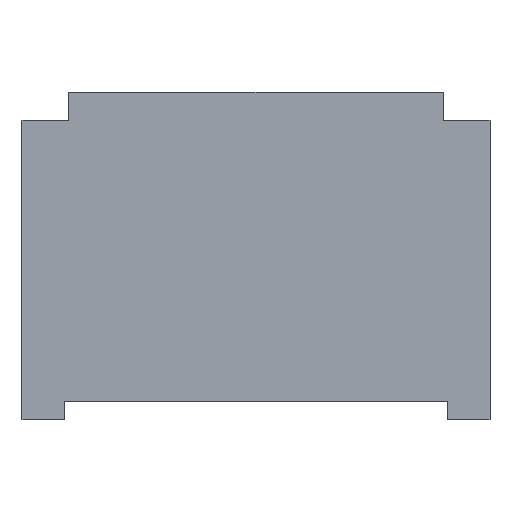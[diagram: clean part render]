
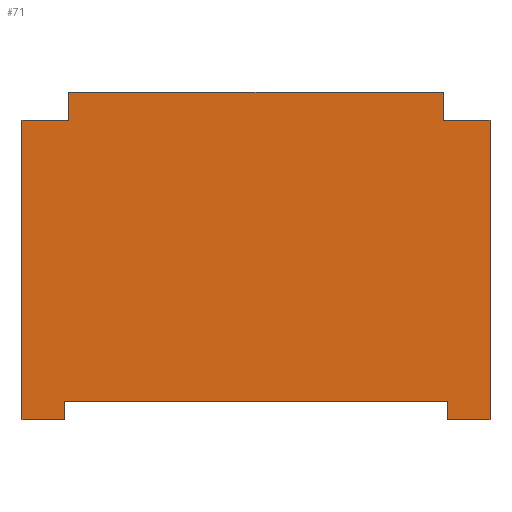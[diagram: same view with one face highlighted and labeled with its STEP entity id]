
A CAD part, front view. The second image highlights one B-rep face of the part: STEP entity #71.
In plain terms, the highlighted planar face has unit normal (0, -1, 0).
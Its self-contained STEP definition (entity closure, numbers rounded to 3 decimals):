
#6 = EDGE_CURVE ( 'NONE', #166, #286, #256, .T. ) ;
#14 = EDGE_CURVE ( 'NONE', #203, #439, #471, .T. ) ;
#15 = DIRECTION ( 'NONE',  ( 0., 0., 1. ) ) ;
#17 = VECTOR ( 'NONE', #121, 1000. ) ;
#27 = ORIENTED_EDGE ( 'NONE', *, *, #243, .F. ) ;
#30 = EDGE_CURVE ( 'NONE', #516, #149, #132, .T. ) ;
#39 = VERTEX_POINT ( 'NONE', #259 ) ;
#41 = ORIENTED_EDGE ( 'NONE', *, *, #127, .F. ) ;
#43 = LINE ( 'NONE', #417, #17 ) ;
#48 = EDGE_CURVE ( 'NONE', #39, #203, #424, .T. ) ;
#52 = DIRECTION ( 'NONE',  ( 0., 0., -1. ) ) ;
#58 = PLANE ( 'NONE',  #275 ) ;
#61 = DIRECTION ( 'NONE',  ( -1., 0., 0. ) ) ;
#63 = VECTOR ( 'NONE', #331, 1000. ) ;
#71 = ADVANCED_FACE ( 'NONE', ( #428 ), #58, .F. ) ;
#72 = LINE ( 'NONE', #402, #83 ) ;
#73 = VERTEX_POINT ( 'NONE', #261 ) ;
#83 = VECTOR ( 'NONE', #487, 1000. ) ;
#92 = DIRECTION ( 'NONE',  ( 0., 0., -1. ) ) ;
#97 = CARTESIAN_POINT ( 'NONE',  ( 25., -27., -35. ) ) ;
#113 = ORIENTED_EDGE ( 'NONE', *, *, #30, .F. ) ;
#121 = DIRECTION ( 'NONE',  ( -1., 0., 0. ) ) ;
#124 = CARTESIAN_POINT ( 'NONE',  ( -20., -27., -3. ) ) ;
#127 = EDGE_CURVE ( 'NONE', #286, #39, #462, .T. ) ;
#132 = LINE ( 'NONE', #338, #251 ) ;
#146 = VERTEX_POINT ( 'NONE', #337 ) ;
#149 = VERTEX_POINT ( 'NONE', #379 ) ;
#153 = VECTOR ( 'NONE', #341, 1000. ) ;
#163 = CARTESIAN_POINT ( 'NONE',  ( -20., -27., 0. ) ) ;
#164 = LINE ( 'NONE', #124, #484 ) ;
#166 = VERTEX_POINT ( 'NONE', #163 ) ;
#176 = CARTESIAN_POINT ( 'NONE',  ( 25., -27., -3. ) ) ;
#178 = DIRECTION ( 'NONE',  ( 0., 1., 0. ) ) ;
#198 = ORIENTED_EDGE ( 'NONE', *, *, #350, .F. ) ;
#203 = VERTEX_POINT ( 'NONE', #215 ) ;
#206 = CARTESIAN_POINT ( 'NONE',  ( 20.5, -27., -35. ) ) ;
#213 = DIRECTION ( 'NONE',  ( 0., 0., -1. ) ) ;
#215 = CARTESIAN_POINT ( 'NONE',  ( 25., -27., -3. ) ) ;
#219 = CARTESIAN_POINT ( 'NONE',  ( 20., -27., -3. ) ) ;
#232 = CARTESIAN_POINT ( 'NONE',  ( 20., -27., 0. ) ) ;
#238 = VECTOR ( 'NONE', #61, 1000. ) ;
#243 = EDGE_CURVE ( 'NONE', #73, #516, #72, .T. ) ;
#251 = VECTOR ( 'NONE', #92, 1000. ) ;
#256 = LINE ( 'NONE', #507, #269 ) ;
#259 = CARTESIAN_POINT ( 'NONE',  ( 20., -27., -3. ) ) ;
#261 = CARTESIAN_POINT ( 'NONE',  ( 20.5, -27., -33. ) ) ;
#264 = CARTESIAN_POINT ( 'NONE',  ( 20.5, -27., -33. ) ) ;
#269 = VECTOR ( 'NONE', #420, 1000. ) ;
#270 = LINE ( 'NONE', #362, #238 ) ;
#275 = AXIS2_PLACEMENT_3D ( 'NONE', #388, #178, #505 ) ;
#282 = CARTESIAN_POINT ( 'NONE',  ( -20., -27., -3. ) ) ;
#286 = VERTEX_POINT ( 'NONE', #232 ) ;
#294 = EDGE_CURVE ( 'NONE', #409, #73, #345, .T. ) ;
#295 = ORIENTED_EDGE ( 'NONE', *, *, #406, .F. ) ;
#303 = VECTOR ( 'NONE', #15, 1000. ) ;
#305 = EDGE_CURVE ( 'NONE', #149, #146, #270, .T. ) ;
#314 = ORIENTED_EDGE ( 'NONE', *, *, #305, .F. ) ;
#329 = EDGE_LOOP ( 'NONE', ( #198, #540, #365, #314, #113, #27, #474, #295, #504, #372, #41, #451 ) ) ;
#331 = DIRECTION ( 'NONE',  ( 0., 0., 1. ) ) ;
#337 = CARTESIAN_POINT ( 'NONE',  ( -25., -27., -35. ) ) ;
#338 = CARTESIAN_POINT ( 'NONE',  ( -20.5, -27., -35. ) ) ;
#341 = DIRECTION ( 'NONE',  ( 1., 0., 0. ) ) ;
#345 = LINE ( 'NONE', #264, #492 ) ;
#350 = EDGE_CURVE ( 'NONE', #403, #166, #429, .T. ) ;
#362 = CARTESIAN_POINT ( 'NONE',  ( -25., -27., -35. ) ) ;
#365 = ORIENTED_EDGE ( 'NONE', *, *, #448, .F. ) ;
#367 = DIRECTION ( 'NONE',  ( 1., 0., 0. ) ) ;
#368 = VECTOR ( 'NONE', #213, 1000. ) ;
#372 = ORIENTED_EDGE ( 'NONE', *, *, #48, .F. ) ;
#379 = CARTESIAN_POINT ( 'NONE',  ( -20.5, -27., -35. ) ) ;
#388 = CARTESIAN_POINT ( 'NONE',  ( 0., -27., 0. ) ) ;
#391 = VECTOR ( 'NONE', #52, 1000. ) ;
#399 = EDGE_CURVE ( 'NONE', #489, #403, #164, .T. ) ;
#402 = CARTESIAN_POINT ( 'NONE',  ( -20.5, -27., -33. ) ) ;
#403 = VERTEX_POINT ( 'NONE', #282 ) ;
#406 = EDGE_CURVE ( 'NONE', #439, #409, #43, .T. ) ;
#409 = VERTEX_POINT ( 'NONE', #206 ) ;
#417 = CARTESIAN_POINT ( 'NONE',  ( 20.5, -27., -35. ) ) ;
#420 = DIRECTION ( 'NONE',  ( 1., 0., 0. ) ) ;
#424 = LINE ( 'NONE', #176, #153 ) ;
#428 = FACE_OUTER_BOUND ( 'NONE', #329, .T. ) ;
#429 = LINE ( 'NONE', #485, #303 ) ;
#431 = DIRECTION ( 'NONE',  ( 0., 0., 1. ) ) ;
#439 = VERTEX_POINT ( 'NONE', #460 ) ;
#448 = EDGE_CURVE ( 'NONE', #146, #489, #493, .T. ) ;
#451 = ORIENTED_EDGE ( 'NONE', *, *, #6, .F. ) ;
#460 = CARTESIAN_POINT ( 'NONE',  ( 25., -27., -35. ) ) ;
#462 = LINE ( 'NONE', #219, #391 ) ;
#471 = LINE ( 'NONE', #97, #368 ) ;
#474 = ORIENTED_EDGE ( 'NONE', *, *, #294, .F. ) ;
#484 = VECTOR ( 'NONE', #367, 1000. ) ;
#485 = CARTESIAN_POINT ( 'NONE',  ( -20., -27., 0. ) ) ;
#487 = DIRECTION ( 'NONE',  ( -1., 0., 0. ) ) ;
#489 = VERTEX_POINT ( 'NONE', #500 ) ;
#492 = VECTOR ( 'NONE', #431, 1000. ) ;
#493 = LINE ( 'NONE', #537, #63 ) ;
#500 = CARTESIAN_POINT ( 'NONE',  ( -25., -27., -3. ) ) ;
#504 = ORIENTED_EDGE ( 'NONE', *, *, #14, .F. ) ;
#505 = DIRECTION ( 'NONE',  ( 0., 0., 1. ) ) ;
#507 = CARTESIAN_POINT ( 'NONE',  ( -20., -27., 0. ) ) ;
#512 = CARTESIAN_POINT ( 'NONE',  ( -20.5, -27., -33. ) ) ;
#516 = VERTEX_POINT ( 'NONE', #512 ) ;
#537 = CARTESIAN_POINT ( 'NONE',  ( -25., -27., -3. ) ) ;
#540 = ORIENTED_EDGE ( 'NONE', *, *, #399, .F. ) ;
